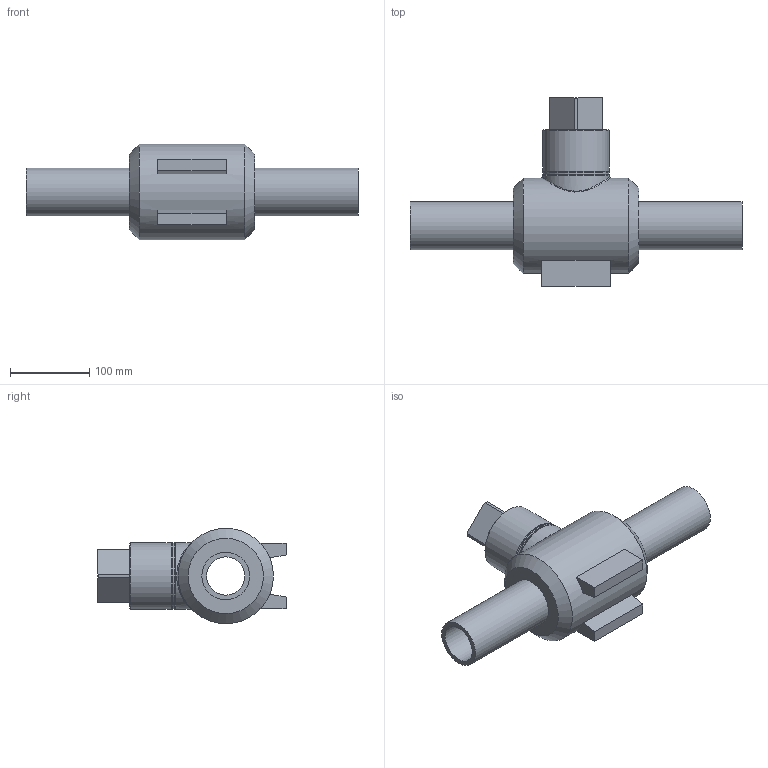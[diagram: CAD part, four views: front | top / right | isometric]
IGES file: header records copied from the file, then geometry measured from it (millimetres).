
Global section: file name: 536207020.ipt; native system: Autodesk Inventor 2019; preprocessor: unknown; author: Кирилл,,11,0; organization: 20170828.110610; date: 20210830.100817; units: inch
Bounding box: 418 x 237 x 120 mm (x, y, z)
Volume: 2011770 mm3; surface area: 230556.8 mm2
Topology: 1 solids, 1 shells, 43 faces, 112 edges, 75 vertices
Faces by surface type: plane 20, cylinder 10, cone 7, revolution 4, bspline 2
Full cylindrical faces by diameter (mm): 60.1 x2, 84 x3, 120 x1
